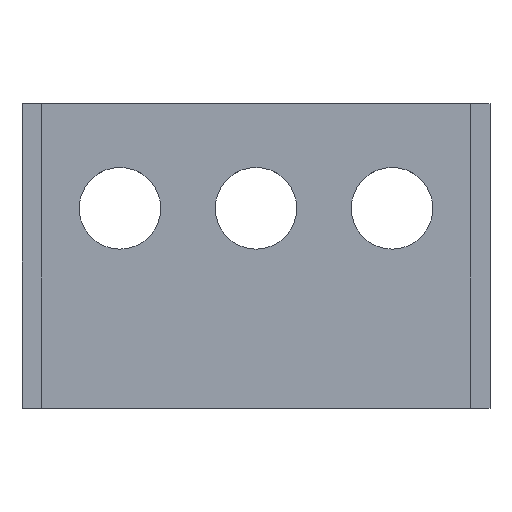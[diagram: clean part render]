
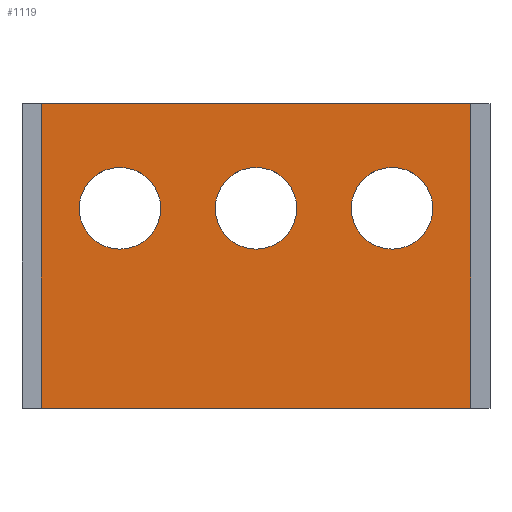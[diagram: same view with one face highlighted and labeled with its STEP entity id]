
A CAD part, top view. The second image highlights one B-rep face of the part: STEP entity #1119.
In plain terms, the highlighted planar face has unit normal (0, 0, 1).
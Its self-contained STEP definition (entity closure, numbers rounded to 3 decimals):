
#44 = PLANE('',#45);
#45 = AXIS2_PLACEMENT_3D('',#46,#47,#48);
#46 = CARTESIAN_POINT('',(-15.8,-12.8,85.5));
#47 = DIRECTION('',(0.,-1.,0.));
#48 = DIRECTION('',(1.,0.,0.));
#100 = PLANE('',#101);
#101 = AXIS2_PLACEMENT_3D('',#102,#103,#104);
#102 = CARTESIAN_POINT('',(-15.8,9.6,85.5));
#103 = DIRECTION('',(0.,-1.,0.));
#104 = DIRECTION('',(1.,0.,0.));
#497 = VERTEX_POINT('',#498);
#498 = CARTESIAN_POINT('',(15.8,-12.8,90.));
#512 = PLANE('',#513);
#513 = AXIS2_PLACEMENT_3D('',#514,#515,#516);
#514 = CARTESIAN_POINT('',(15.8,9.6,85.5));
#515 = DIRECTION('',(1.,0.,0.));
#516 = DIRECTION('',(0.,-1.,0.));
#524 = EDGE_CURVE('',#525,#497,#527,.T.);
#525 = VERTEX_POINT('',#526);
#526 = CARTESIAN_POINT('',(-15.8,-12.8,90.));
#527 = SURFACE_CURVE('',#528,(#532,#539),.PCURVE_S1.);
#528 = LINE('',#529,#530);
#529 = CARTESIAN_POINT('',(-15.8,-12.8,90.));
#530 = VECTOR('',#531,1.);
#531 = DIRECTION('',(1.,0.,0.));
#532 = PCURVE('',#44,#533);
#533 = DEFINITIONAL_REPRESENTATION('',(#534),#538);
#534 = LINE('',#535,#536);
#535 = CARTESIAN_POINT('',(0.,4.5));
#536 = VECTOR('',#537,1.);
#537 = DIRECTION('',(1.,0.));
#538 = ( GEOMETRIC_REPRESENTATION_CONTEXT(2) 
PARAMETRIC_REPRESENTATION_CONTEXT() REPRESENTATION_CONTEXT('2D SPACE',''
  ) );
#539 = PCURVE('',#540,#545);
#540 = PLANE('',#541);
#541 = AXIS2_PLACEMENT_3D('',#542,#543,#544);
#542 = CARTESIAN_POINT('',(-15.8,9.6,90.));
#543 = DIRECTION('',(0.,0.,1.));
#544 = DIRECTION('',(0.,-1.,0.));
#545 = DEFINITIONAL_REPRESENTATION('',(#546),#550);
#546 = LINE('',#547,#548);
#547 = CARTESIAN_POINT('',(22.4,0.));
#548 = VECTOR('',#549,1.);
#549 = DIRECTION('',(0.,1.));
#550 = ( GEOMETRIC_REPRESENTATION_CONTEXT(2) 
PARAMETRIC_REPRESENTATION_CONTEXT() REPRESENTATION_CONTEXT('2D SPACE',''
  ) );
#568 = PLANE('',#569);
#569 = AXIS2_PLACEMENT_3D('',#570,#571,#572);
#570 = CARTESIAN_POINT('',(-15.8,9.6,85.5));
#571 = DIRECTION('',(1.,0.,0.));
#572 = DIRECTION('',(0.,-1.,0.));
#826 = VERTEX_POINT('',#827);
#827 = CARTESIAN_POINT('',(15.8,9.6,90.));
#848 = EDGE_CURVE('',#849,#826,#851,.T.);
#849 = VERTEX_POINT('',#850);
#850 = CARTESIAN_POINT('',(-15.8,9.6,90.));
#851 = SURFACE_CURVE('',#852,(#856,#863),.PCURVE_S1.);
#852 = LINE('',#853,#854);
#853 = CARTESIAN_POINT('',(-15.8,9.6,90.));
#854 = VECTOR('',#855,1.);
#855 = DIRECTION('',(1.,0.,0.));
#856 = PCURVE('',#100,#857);
#857 = DEFINITIONAL_REPRESENTATION('',(#858),#862);
#858 = LINE('',#859,#860);
#859 = CARTESIAN_POINT('',(0.,4.5));
#860 = VECTOR('',#861,1.);
#861 = DIRECTION('',(1.,0.));
#862 = ( GEOMETRIC_REPRESENTATION_CONTEXT(2) 
PARAMETRIC_REPRESENTATION_CONTEXT() REPRESENTATION_CONTEXT('2D SPACE',''
  ) );
#863 = PCURVE('',#540,#864);
#864 = DEFINITIONAL_REPRESENTATION('',(#865),#869);
#865 = LINE('',#866,#867);
#866 = CARTESIAN_POINT('',(0.,0.));
#867 = VECTOR('',#868,1.);
#868 = DIRECTION('',(0.,1.));
#869 = ( GEOMETRIC_REPRESENTATION_CONTEXT(2) 
PARAMETRIC_REPRESENTATION_CONTEXT() REPRESENTATION_CONTEXT('2D SPACE',''
  ) );
#1099 = EDGE_CURVE('',#849,#525,#1100,.T.);
#1100 = SURFACE_CURVE('',#1101,(#1105,#1112),.PCURVE_S1.);
#1101 = LINE('',#1102,#1103);
#1102 = CARTESIAN_POINT('',(-15.8,9.6,90.));
#1103 = VECTOR('',#1104,1.);
#1104 = DIRECTION('',(0.,-1.,0.));
#1105 = PCURVE('',#568,#1106);
#1106 = DEFINITIONAL_REPRESENTATION('',(#1107),#1111);
#1107 = LINE('',#1108,#1109);
#1108 = CARTESIAN_POINT('',(0.,-4.5));
#1109 = VECTOR('',#1110,1.);
#1110 = DIRECTION('',(1.,0.));
#1111 = ( GEOMETRIC_REPRESENTATION_CONTEXT(2) 
PARAMETRIC_REPRESENTATION_CONTEXT() REPRESENTATION_CONTEXT('2D SPACE',''
  ) );
#1112 = PCURVE('',#540,#1113);
#1113 = DEFINITIONAL_REPRESENTATION('',(#1114),#1118);
#1114 = LINE('',#1115,#1116);
#1115 = CARTESIAN_POINT('',(0.,0.));
#1116 = VECTOR('',#1117,1.);
#1117 = DIRECTION('',(1.,0.));
#1118 = ( GEOMETRIC_REPRESENTATION_CONTEXT(2) 
PARAMETRIC_REPRESENTATION_CONTEXT() REPRESENTATION_CONTEXT('2D SPACE',''
  ) );
#1119 = ADVANCED_FACE('',(#1120,#1146,#1181,#1216),#540,.T.);
#1120 = FACE_BOUND('',#1121,.T.);
#1121 = EDGE_LOOP('',(#1122,#1123,#1124,#1125));
#1122 = ORIENTED_EDGE('',*,*,#848,.F.);
#1123 = ORIENTED_EDGE('',*,*,#1099,.T.);
#1124 = ORIENTED_EDGE('',*,*,#524,.T.);
#1125 = ORIENTED_EDGE('',*,*,#1126,.F.);
#1126 = EDGE_CURVE('',#826,#497,#1127,.T.);
#1127 = SURFACE_CURVE('',#1128,(#1132,#1139),.PCURVE_S1.);
#1128 = LINE('',#1129,#1130);
#1129 = CARTESIAN_POINT('',(15.8,9.6,90.));
#1130 = VECTOR('',#1131,1.);
#1131 = DIRECTION('',(0.,-1.,0.));
#1132 = PCURVE('',#540,#1133);
#1133 = DEFINITIONAL_REPRESENTATION('',(#1134),#1138);
#1134 = LINE('',#1135,#1136);
#1135 = CARTESIAN_POINT('',(0.,31.6));
#1136 = VECTOR('',#1137,1.);
#1137 = DIRECTION('',(1.,0.));
#1138 = ( GEOMETRIC_REPRESENTATION_CONTEXT(2) 
PARAMETRIC_REPRESENTATION_CONTEXT() REPRESENTATION_CONTEXT('2D SPACE',''
  ) );
#1139 = PCURVE('',#512,#1140);
#1140 = DEFINITIONAL_REPRESENTATION('',(#1141),#1145);
#1141 = LINE('',#1142,#1143);
#1142 = CARTESIAN_POINT('',(0.,-4.5));
#1143 = VECTOR('',#1144,1.);
#1144 = DIRECTION('',(1.,0.));
#1145 = ( GEOMETRIC_REPRESENTATION_CONTEXT(2) 
PARAMETRIC_REPRESENTATION_CONTEXT() REPRESENTATION_CONTEXT('2D SPACE',''
  ) );
#1146 = FACE_BOUND('',#1147,.T.);
#1147 = EDGE_LOOP('',(#1148));
#1148 = ORIENTED_EDGE('',*,*,#1149,.T.);
#1149 = EDGE_CURVE('',#1150,#1150,#1152,.T.);
#1150 = VERTEX_POINT('',#1151);
#1151 = CARTESIAN_POINT('',(-7.,1.9,90.));
#1152 = SURFACE_CURVE('',#1153,(#1158,#1169),.PCURVE_S1.);
#1153 = CIRCLE('',#1154,3.);
#1154 = AXIS2_PLACEMENT_3D('',#1155,#1156,#1157);
#1155 = CARTESIAN_POINT('',(-10.,1.9,90.));
#1156 = DIRECTION('',(0.,0.,-1.));
#1157 = DIRECTION('',(1.,0.,0.));
#1158 = PCURVE('',#540,#1159);
#1159 = DEFINITIONAL_REPRESENTATION('',(#1160),#1168);
#1160 = ( BOUNDED_CURVE() B_SPLINE_CURVE(2,(#1161,#1162,#1163,#1164,
#1165,#1166,#1167),.UNSPECIFIED.,.T.,.F.) B_SPLINE_CURVE_WITH_KNOTS((1,2
    ,2,2,2,1),(-2.094,0.,2.094,4.189,
6.283,8.378),.UNSPECIFIED.) CURVE() 
GEOMETRIC_REPRESENTATION_ITEM() RATIONAL_B_SPLINE_CURVE((1.,0.5,1.,0.5,
1.,0.5,1.)) REPRESENTATION_ITEM('') );
#1161 = CARTESIAN_POINT('',(7.7,8.8));
#1162 = CARTESIAN_POINT('',(12.896,8.8));
#1163 = CARTESIAN_POINT('',(10.298,4.3));
#1164 = CARTESIAN_POINT('',(7.7,-0.2));
#1165 = CARTESIAN_POINT('',(5.102,4.3));
#1166 = CARTESIAN_POINT('',(2.504,8.8));
#1167 = CARTESIAN_POINT('',(7.7,8.8));
#1168 = ( GEOMETRIC_REPRESENTATION_CONTEXT(2) 
PARAMETRIC_REPRESENTATION_CONTEXT() REPRESENTATION_CONTEXT('2D SPACE',''
  ) );
#1169 = PCURVE('',#1170,#1175);
#1170 = CYLINDRICAL_SURFACE('',#1171,3.);
#1171 = AXIS2_PLACEMENT_3D('',#1172,#1173,#1174);
#1172 = CARTESIAN_POINT('',(-10.,1.9,85.));
#1173 = DIRECTION('',(0.,0.,-1.));
#1174 = DIRECTION('',(1.,0.,0.));
#1175 = DEFINITIONAL_REPRESENTATION('',(#1176),#1180);
#1176 = LINE('',#1177,#1178);
#1177 = CARTESIAN_POINT('',(0.,-5.));
#1178 = VECTOR('',#1179,1.);
#1179 = DIRECTION('',(1.,0.));
#1180 = ( GEOMETRIC_REPRESENTATION_CONTEXT(2) 
PARAMETRIC_REPRESENTATION_CONTEXT() REPRESENTATION_CONTEXT('2D SPACE',''
  ) );
#1181 = FACE_BOUND('',#1182,.T.);
#1182 = EDGE_LOOP('',(#1183));
#1183 = ORIENTED_EDGE('',*,*,#1184,.T.);
#1184 = EDGE_CURVE('',#1185,#1185,#1187,.T.);
#1185 = VERTEX_POINT('',#1186);
#1186 = CARTESIAN_POINT('',(3.,1.9,90.));
#1187 = SURFACE_CURVE('',#1188,(#1193,#1204),.PCURVE_S1.);
#1188 = CIRCLE('',#1189,3.);
#1189 = AXIS2_PLACEMENT_3D('',#1190,#1191,#1192);
#1190 = CARTESIAN_POINT('',(0.,1.9,90.));
#1191 = DIRECTION('',(0.,0.,-1.));
#1192 = DIRECTION('',(1.,0.,0.));
#1193 = PCURVE('',#540,#1194);
#1194 = DEFINITIONAL_REPRESENTATION('',(#1195),#1203);
#1195 = ( BOUNDED_CURVE() B_SPLINE_CURVE(2,(#1196,#1197,#1198,#1199,
#1200,#1201,#1202),.UNSPECIFIED.,.T.,.F.) B_SPLINE_CURVE_WITH_KNOTS((1,2
    ,2,2,2,1),(-2.094,0.,2.094,4.189,
6.283,8.378),.UNSPECIFIED.) CURVE() 
GEOMETRIC_REPRESENTATION_ITEM() RATIONAL_B_SPLINE_CURVE((1.,0.5,1.,0.5,
1.,0.5,1.)) REPRESENTATION_ITEM('') );
#1196 = CARTESIAN_POINT('',(7.7,18.8));
#1197 = CARTESIAN_POINT('',(12.896,18.8));
#1198 = CARTESIAN_POINT('',(10.298,14.3));
#1199 = CARTESIAN_POINT('',(7.7,9.8));
#1200 = CARTESIAN_POINT('',(5.102,14.3));
#1201 = CARTESIAN_POINT('',(2.504,18.8));
#1202 = CARTESIAN_POINT('',(7.7,18.8));
#1203 = ( GEOMETRIC_REPRESENTATION_CONTEXT(2) 
PARAMETRIC_REPRESENTATION_CONTEXT() REPRESENTATION_CONTEXT('2D SPACE',''
  ) );
#1204 = PCURVE('',#1205,#1210);
#1205 = CYLINDRICAL_SURFACE('',#1206,3.);
#1206 = AXIS2_PLACEMENT_3D('',#1207,#1208,#1209);
#1207 = CARTESIAN_POINT('',(0.,1.9,85.));
#1208 = DIRECTION('',(0.,0.,-1.));
#1209 = DIRECTION('',(1.,0.,0.));
#1210 = DEFINITIONAL_REPRESENTATION('',(#1211),#1215);
#1211 = LINE('',#1212,#1213);
#1212 = CARTESIAN_POINT('',(0.,-5.));
#1213 = VECTOR('',#1214,1.);
#1214 = DIRECTION('',(1.,0.));
#1215 = ( GEOMETRIC_REPRESENTATION_CONTEXT(2) 
PARAMETRIC_REPRESENTATION_CONTEXT() REPRESENTATION_CONTEXT('2D SPACE',''
  ) );
#1216 = FACE_BOUND('',#1217,.T.);
#1217 = EDGE_LOOP('',(#1218));
#1218 = ORIENTED_EDGE('',*,*,#1219,.T.);
#1219 = EDGE_CURVE('',#1220,#1220,#1222,.T.);
#1220 = VERTEX_POINT('',#1221);
#1221 = CARTESIAN_POINT('',(13.,1.9,90.));
#1222 = SURFACE_CURVE('',#1223,(#1228,#1239),.PCURVE_S1.);
#1223 = CIRCLE('',#1224,3.);
#1224 = AXIS2_PLACEMENT_3D('',#1225,#1226,#1227);
#1225 = CARTESIAN_POINT('',(10.,1.9,90.));
#1226 = DIRECTION('',(0.,0.,-1.));
#1227 = DIRECTION('',(1.,0.,0.));
#1228 = PCURVE('',#540,#1229);
#1229 = DEFINITIONAL_REPRESENTATION('',(#1230),#1238);
#1230 = ( BOUNDED_CURVE() B_SPLINE_CURVE(2,(#1231,#1232,#1233,#1234,
#1235,#1236,#1237),.UNSPECIFIED.,.T.,.F.) B_SPLINE_CURVE_WITH_KNOTS((1,2
    ,2,2,2,1),(-2.094,0.,2.094,4.189,
6.283,8.378),.UNSPECIFIED.) CURVE() 
GEOMETRIC_REPRESENTATION_ITEM() RATIONAL_B_SPLINE_CURVE((1.,0.5,1.,0.5,
1.,0.5,1.)) REPRESENTATION_ITEM('') );
#1231 = CARTESIAN_POINT('',(7.7,28.8));
#1232 = CARTESIAN_POINT('',(12.896,28.8));
#1233 = CARTESIAN_POINT('',(10.298,24.3));
#1234 = CARTESIAN_POINT('',(7.7,19.8));
#1235 = CARTESIAN_POINT('',(5.102,24.3));
#1236 = CARTESIAN_POINT('',(2.504,28.8));
#1237 = CARTESIAN_POINT('',(7.7,28.8));
#1238 = ( GEOMETRIC_REPRESENTATION_CONTEXT(2) 
PARAMETRIC_REPRESENTATION_CONTEXT() REPRESENTATION_CONTEXT('2D SPACE',''
  ) );
#1239 = PCURVE('',#1240,#1245);
#1240 = CYLINDRICAL_SURFACE('',#1241,3.);
#1241 = AXIS2_PLACEMENT_3D('',#1242,#1243,#1244);
#1242 = CARTESIAN_POINT('',(10.,1.9,85.));
#1243 = DIRECTION('',(0.,0.,-1.));
#1244 = DIRECTION('',(1.,0.,0.));
#1245 = DEFINITIONAL_REPRESENTATION('',(#1246),#1250);
#1246 = LINE('',#1247,#1248);
#1247 = CARTESIAN_POINT('',(0.,-5.));
#1248 = VECTOR('',#1249,1.);
#1249 = DIRECTION('',(1.,0.));
#1250 = ( GEOMETRIC_REPRESENTATION_CONTEXT(2) 
PARAMETRIC_REPRESENTATION_CONTEXT() REPRESENTATION_CONTEXT('2D SPACE',''
  ) );
